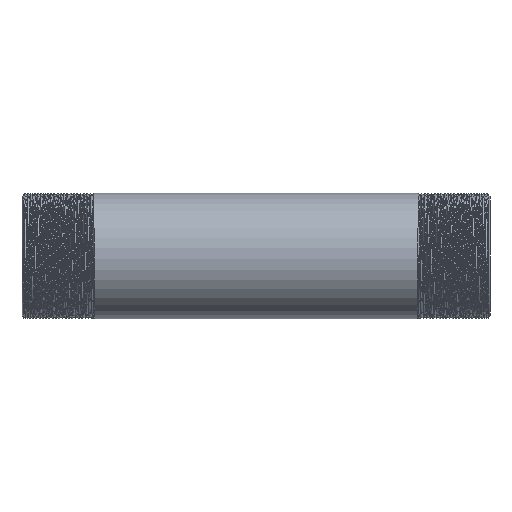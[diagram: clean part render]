
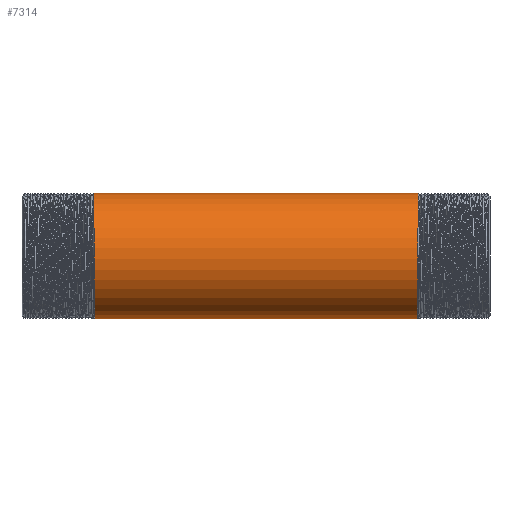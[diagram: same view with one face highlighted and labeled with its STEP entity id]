
A CAD part, front view. The second image highlights one B-rep face of the part: STEP entity #7314.
In plain terms, the highlighted cylindrical face has radius 13.45 mm (diameter 26.9 mm), a partial arc.
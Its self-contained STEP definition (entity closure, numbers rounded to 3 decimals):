
#535 = CARTESIAN_POINT ( 'NONE',  ( -149.494, 0., 13.45 ) ) ;
#613 = CYLINDRICAL_SURFACE ( 'NONE', #8900, 13.45 ) ;
#764 = CARTESIAN_POINT ( 'NONE',  ( -34.738, 0., 13.45 ) ) ;
#841 = VERTEX_POINT ( 'NONE', #12268 ) ;
#1954 =( BOUNDED_CURVE ( )  B_SPLINE_CURVE ( 2, ( #7018, #13276, #6765, #15685, #11870, #15860, #4349 ),
 .UNSPECIFIED., .F., .T. ) 
 B_SPLINE_CURVE_WITH_KNOTS ( ( 3, 2, 2, 3 ),
 ( 0., 0.006, 0.011, 0.017 ),
 .UNSPECIFIED. ) 
 CURVE ( )  GEOMETRIC_REPRESENTATION_ITEM ( )  RATIONAL_B_SPLINE_CURVE ( ( 1., 0.866, 1., 0.866, 1., 0.866, 1. ) ) 
 REPRESENTATION_ITEM ( '' )  );
#2209 = VECTOR ( 'NONE', #7105, 1000. ) ;
#2492 = ORIENTED_EDGE ( 'NONE', *, *, #8370, .T. ) ;
#3030 = DIRECTION ( 'NONE',  ( -1., 0., 0. ) ) ;
#3260 = CARTESIAN_POINT ( 'NONE',  ( -34.388, 0., -13.45 ) ) ;
#3346 = CARTESIAN_POINT ( 'NONE',  ( -34.563, -15.531, 0. ) ) ;
#3503 = VERTEX_POINT ( 'NONE', #13810 ) ;
#4349 = CARTESIAN_POINT ( 'NONE',  ( 34.738, 0., 13.45 ) ) ;
#4449 = DIRECTION ( 'NONE',  ( -1., 0., 0. ) ) ;
#5004 = EDGE_CURVE ( 'NONE', #9332, #841, #15040, .T. ) ;
#5700 = CARTESIAN_POINT ( 'NONE',  ( -149.494, 0., 0. ) ) ;
#6765 = CARTESIAN_POINT ( 'NONE',  ( 34.504, -11.648, -6.725 ) ) ;
#6951 = FACE_OUTER_BOUND ( 'NONE', #11948, .T. ) ;
#6955 = LINE ( 'NONE', #535, #9411 ) ;
#7018 = CARTESIAN_POINT ( 'NONE',  ( 34.388, 0., -13.45 ) ) ;
#7105 = DIRECTION ( 'NONE',  ( -1., 0., 0. ) ) ;
#7314 = ADVANCED_FACE ( 'NONE', ( #6951 ), #613, .T. ) ;
#7754 = CARTESIAN_POINT ( 'NONE',  ( -34.388, 0., -13.45 ) ) ;
#8112 = CARTESIAN_POINT ( 'NONE',  ( -34.679, -7.765, 13.45 ) ) ;
#8359 = CARTESIAN_POINT ( 'NONE',  ( -34.621, -11.648, 6.725 ) ) ;
#8370 = EDGE_CURVE ( 'NONE', #3503, #10331, #1954, .T. ) ;
#8758 = ORIENTED_EDGE ( 'NONE', *, *, #5004, .F. ) ;
#8900 = AXIS2_PLACEMENT_3D ( 'NONE', #5700, #4449, #9545 ) ;
#9332 = VERTEX_POINT ( 'NONE', #7754 ) ;
#9411 = VECTOR ( 'NONE', #3030, 1000. ) ;
#9545 = DIRECTION ( 'NONE',  ( 0., 0., 1. ) ) ;
#10331 = VERTEX_POINT ( 'NONE', #13040 ) ;
#11870 = CARTESIAN_POINT ( 'NONE',  ( 34.621, -11.648, 6.725 ) ) ;
#11948 = EDGE_LOOP ( 'NONE', ( #15265, #2492, #14744, #8758 ) ) ;
#12268 = CARTESIAN_POINT ( 'NONE',  ( -34.738, 0., 13.45 ) ) ;
#12882 = EDGE_CURVE ( 'NONE', #10331, #841, #6955, .T. ) ;
#13040 = CARTESIAN_POINT ( 'NONE',  ( 34.738, 0., 13.45 ) ) ;
#13251 = EDGE_CURVE ( 'NONE', #3503, #9332, #16026, .T. ) ;
#13274 = CARTESIAN_POINT ( 'NONE',  ( -34.504, -11.648, -6.725 ) ) ;
#13276 = CARTESIAN_POINT ( 'NONE',  ( 34.446, -7.765, -13.45 ) ) ;
#13810 = CARTESIAN_POINT ( 'NONE',  ( 34.388, 0., -13.45 ) ) ;
#14521 = CARTESIAN_POINT ( 'NONE',  ( -34.446, -7.765, -13.45 ) ) ;
#14686 = CARTESIAN_POINT ( 'NONE',  ( -149.494, 0., -13.45 ) ) ;
#14744 = ORIENTED_EDGE ( 'NONE', *, *, #12882, .T. ) ;
#15040 =( BOUNDED_CURVE ( )  B_SPLINE_CURVE ( 2, ( #3260, #14521, #13274, #3346, #8359, #8112, #764 ),
 .UNSPECIFIED., .F., .T. ) 
 B_SPLINE_CURVE_WITH_KNOTS ( ( 3, 2, 2, 3 ),
 ( 0., 0.006, 0.011, 0.017 ),
 .UNSPECIFIED. ) 
 CURVE ( )  GEOMETRIC_REPRESENTATION_ITEM ( )  RATIONAL_B_SPLINE_CURVE ( ( 1., 0.866, 1., 0.866, 1., 0.866, 1. ) ) 
 REPRESENTATION_ITEM ( '' )  );
#15265 = ORIENTED_EDGE ( 'NONE', *, *, #13251, .F. ) ;
#15685 = CARTESIAN_POINT ( 'NONE',  ( 34.563, -15.531, 0. ) ) ;
#15860 = CARTESIAN_POINT ( 'NONE',  ( 34.679, -7.765, 13.45 ) ) ;
#16026 = LINE ( 'NONE', #14686, #2209 ) ;
